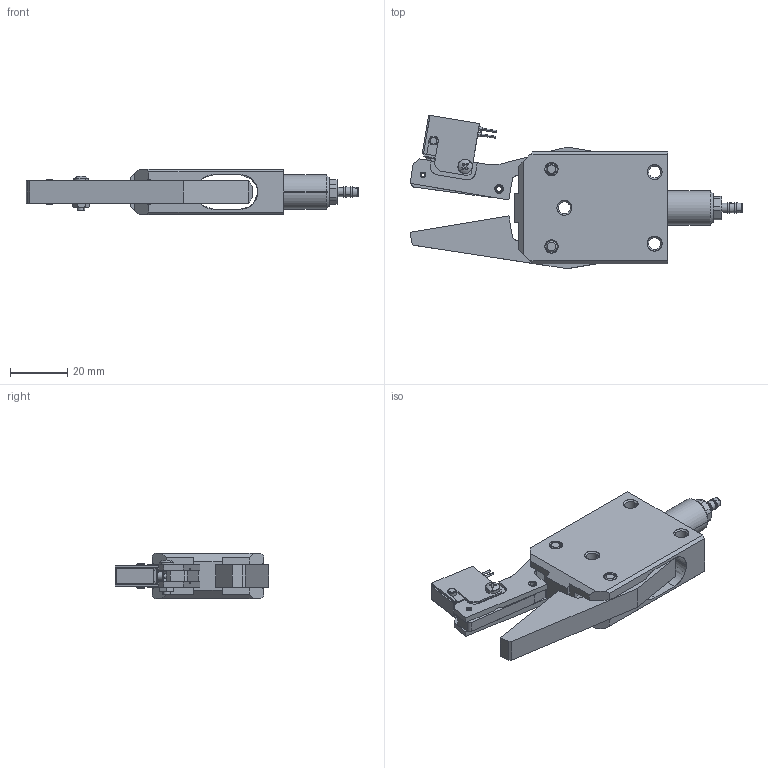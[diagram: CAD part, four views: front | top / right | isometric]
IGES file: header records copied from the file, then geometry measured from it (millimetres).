
Start section: SolidWorks IGES file using analytic representation for surfaces
Global section: file name: E:\2010 カタログ（別冊）\Eins10年4月発売予定新商品データ0311\New CHK-E\CHK-EL1-12-C\023006.IGS; native system: SolidWorks 2006 by SolidWorks Corporation; preprocessor: SolidWorks 2006 by SolidWorks Corporation; author: CAD53; date: 100604.131634; units: millimetre
Bounding box: 115.88 x 53.52 x 16 mm (x, y, z)
Surface area: 18247.4 mm2 (no closed solid volume)
Topology: 0 solids, 0 shells, 319 faces, 4196 edges, 4195 vertices
Faces by surface type: bspline 165, revolution 154
